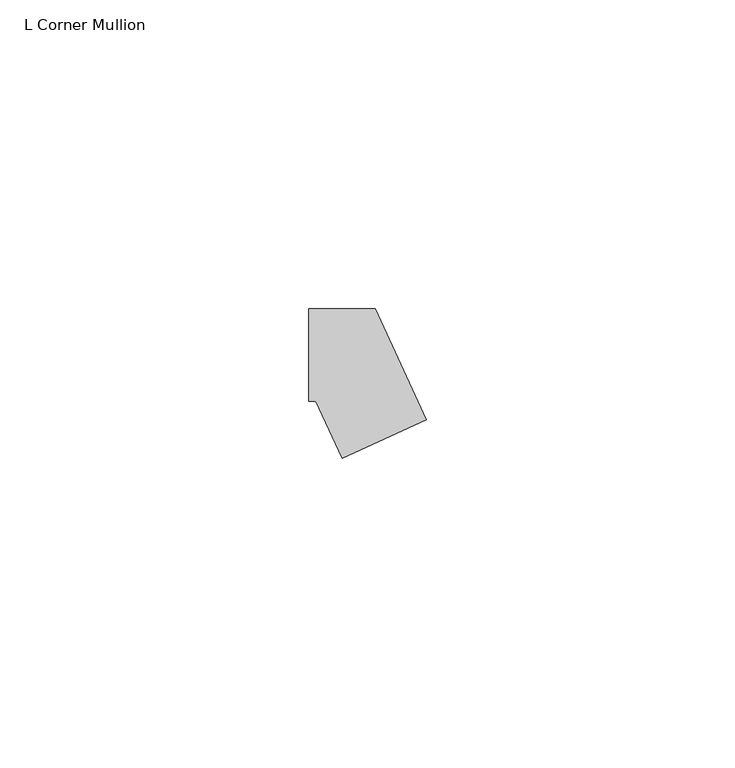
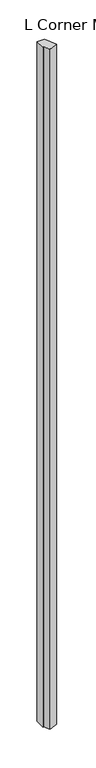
"""IFC4 building model written with IfcOpenShell, lengths in millimetres: member geometry, L Corner Mullion : ARQ_HERR_15X6mm."""

from ifc_helpers import new_model, si_unit, frame, origin, place, context, project, spatial, polyline, outline, extrude, source, transform, mapped, element, save


def l_corner_mullion_bb2ea94d(model_context):
    return source(origin(), model_context, "Body", "SweptSolid", [
        extrude(outline(polyline([(-0.5775282, -16.7605627), (-4.8156946, -7.5), (-6.0, -7.5), (-6.0, 7.5), (4.8156946, 7.5), (13.0619332, -10.5183601), (-0.5775282, -16.7605627)])), frame((0.0, 0.0, -1106.6872549), z_axis=(0.0, 0.0, 1.0), x_axis=(1.0, 0.0, 0.0)), (0.0, 0.0, 1.0), 1106.6872549),
    ])


if __name__ == "__main__":
    model = new_model("IFC4")
    model_context = context("Model", 3, world=origin())
    ifc_project = project(units=[si_unit("LENGTHUNIT", "METRE", prefix="MILLI")], contexts=[model_context])
    site = spatial("IfcSite", under=ifc_project)
    building = spatial("IfcBuilding", under=site)
    placement = place(None, origin())
    l_corner_mullion_shape = l_corner_mullion_bb2ea94d(model_context)
    element("IfcMember", 1, ObjectType="L Corner Mullion : ARQ_HERR_15X6mm", at=placement, inside=building, context=model_context, shape_type="MappedRepresentation", body=[
        mapped(l_corner_mullion_shape, transform((0.0, 0.0, 0.0), x_axis=(1.0, 0.0, 0.0), y_axis=(0.0, 1.0, 0.0), z_axis=(0.0, 0.0, 1.0))),
    ])
    save(model, "model.ifc")
